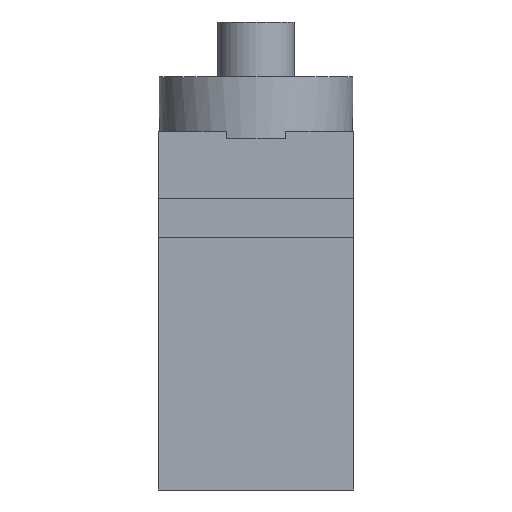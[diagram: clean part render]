
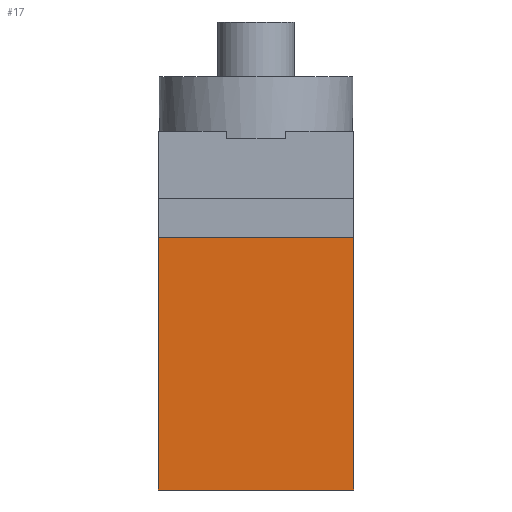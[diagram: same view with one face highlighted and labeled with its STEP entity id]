
A CAD part, left-side view. The second image highlights one B-rep face of the part: STEP entity #17.
In plain terms, the highlighted planar face has unit normal (-1, 0, 0).
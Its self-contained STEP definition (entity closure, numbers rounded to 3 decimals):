
#17 = ADVANCED_FACE('',(#18),#32,.F.);
#18 = FACE_BOUND('',#19,.F.);
#19 = EDGE_LOOP('',(#20,#55,#83,#111));
#20 = ORIENTED_EDGE('',*,*,#21,.F.);
#21 = EDGE_CURVE('',#22,#24,#26,.T.);
#22 = VERTEX_POINT('',#23);
#23 = CARTESIAN_POINT('',(-11.75,-27.043,-72.7));
#24 = VERTEX_POINT('',#25);
#25 = CARTESIAN_POINT('',(-11.75,-27.043,-56.5));
#26 = SURFACE_CURVE('',#27,(#31,#43),.PCURVE_S1.);
#27 = LINE('',#28,#29);
#28 = CARTESIAN_POINT('',(-11.75,-27.043,-72.7));
#29 = VECTOR('',#30,1.);
#30 = DIRECTION('',(0.,0.,1.));
#31 = PCURVE('',#32,#37);
#32 = PLANE('',#33);
#33 = AXIS2_PLACEMENT_3D('',#34,#35,#36);
#34 = CARTESIAN_POINT('',(-11.75,-27.043,-72.7));
#35 = DIRECTION('',(1.,0.,-0.));
#36 = DIRECTION('',(0.,0.,1.));
#37 = DEFINITIONAL_REPRESENTATION('',(#38),#42);
#38 = LINE('',#39,#40);
#39 = CARTESIAN_POINT('',(0.,0.));
#40 = VECTOR('',#41,1.);
#41 = DIRECTION('',(1.,0.));
#42 = ( GEOMETRIC_REPRESENTATION_CONTEXT(2) 
PARAMETRIC_REPRESENTATION_CONTEXT() REPRESENTATION_CONTEXT('2D SPACE',''
  ) );
#43 = PCURVE('',#44,#49);
#44 = PLANE('',#45);
#45 = AXIS2_PLACEMENT_3D('',#46,#47,#48);
#46 = CARTESIAN_POINT('',(-11.75,-27.043,-72.7));
#47 = DIRECTION('',(-0.,1.,0.));
#48 = DIRECTION('',(0.,0.,1.));
#49 = DEFINITIONAL_REPRESENTATION('',(#50),#54);
#50 = LINE('',#51,#52);
#51 = CARTESIAN_POINT('',(0.,0.));
#52 = VECTOR('',#53,1.);
#53 = DIRECTION('',(1.,0.));
#54 = ( GEOMETRIC_REPRESENTATION_CONTEXT(2) 
PARAMETRIC_REPRESENTATION_CONTEXT() REPRESENTATION_CONTEXT('2D SPACE',''
  ) );
#55 = ORIENTED_EDGE('',*,*,#56,.T.);
#56 = EDGE_CURVE('',#22,#57,#59,.T.);
#57 = VERTEX_POINT('',#58);
#58 = CARTESIAN_POINT('',(-11.75,-14.543,-72.7));
#59 = SURFACE_CURVE('',#60,(#64,#71),.PCURVE_S1.);
#60 = LINE('',#61,#62);
#61 = CARTESIAN_POINT('',(-11.75,-27.043,-72.7));
#62 = VECTOR('',#63,1.);
#63 = DIRECTION('',(-0.,1.,0.));
#64 = PCURVE('',#32,#65);
#65 = DEFINITIONAL_REPRESENTATION('',(#66),#70);
#66 = LINE('',#67,#68);
#67 = CARTESIAN_POINT('',(0.,0.));
#68 = VECTOR('',#69,1.);
#69 = DIRECTION('',(0.,-1.));
#70 = ( GEOMETRIC_REPRESENTATION_CONTEXT(2) 
PARAMETRIC_REPRESENTATION_CONTEXT() REPRESENTATION_CONTEXT('2D SPACE',''
  ) );
#71 = PCURVE('',#72,#77);
#72 = PLANE('',#73);
#73 = AXIS2_PLACEMENT_3D('',#74,#75,#76);
#74 = CARTESIAN_POINT('',(-11.75,-27.043,-72.7));
#75 = DIRECTION('',(0.,0.,1.));
#76 = DIRECTION('',(1.,0.,-0.));
#77 = DEFINITIONAL_REPRESENTATION('',(#78),#82);
#78 = LINE('',#79,#80);
#79 = CARTESIAN_POINT('',(0.,0.));
#80 = VECTOR('',#81,1.);
#81 = DIRECTION('',(0.,1.));
#82 = ( GEOMETRIC_REPRESENTATION_CONTEXT(2) 
PARAMETRIC_REPRESENTATION_CONTEXT() REPRESENTATION_CONTEXT('2D SPACE',''
  ) );
#83 = ORIENTED_EDGE('',*,*,#84,.T.);
#84 = EDGE_CURVE('',#57,#85,#87,.T.);
#85 = VERTEX_POINT('',#86);
#86 = CARTESIAN_POINT('',(-11.75,-14.543,-56.5));
#87 = SURFACE_CURVE('',#88,(#92,#99),.PCURVE_S1.);
#88 = LINE('',#89,#90);
#89 = CARTESIAN_POINT('',(-11.75,-14.543,-72.7));
#90 = VECTOR('',#91,1.);
#91 = DIRECTION('',(0.,0.,1.));
#92 = PCURVE('',#32,#93);
#93 = DEFINITIONAL_REPRESENTATION('',(#94),#98);
#94 = LINE('',#95,#96);
#95 = CARTESIAN_POINT('',(0.,-12.5));
#96 = VECTOR('',#97,1.);
#97 = DIRECTION('',(1.,0.));
#98 = ( GEOMETRIC_REPRESENTATION_CONTEXT(2) 
PARAMETRIC_REPRESENTATION_CONTEXT() REPRESENTATION_CONTEXT('2D SPACE',''
  ) );
#99 = PCURVE('',#100,#105);
#100 = PLANE('',#101);
#101 = AXIS2_PLACEMENT_3D('',#102,#103,#104);
#102 = CARTESIAN_POINT('',(-11.75,-14.543,-72.7));
#103 = DIRECTION('',(-0.,1.,0.));
#104 = DIRECTION('',(0.,0.,1.));
#105 = DEFINITIONAL_REPRESENTATION('',(#106),#110);
#106 = LINE('',#107,#108);
#107 = CARTESIAN_POINT('',(0.,0.));
#108 = VECTOR('',#109,1.);
#109 = DIRECTION('',(1.,0.));
#110 = ( GEOMETRIC_REPRESENTATION_CONTEXT(2) 
PARAMETRIC_REPRESENTATION_CONTEXT() REPRESENTATION_CONTEXT('2D SPACE',''
  ) );
#111 = ORIENTED_EDGE('',*,*,#112,.T.);
#112 = EDGE_CURVE('',#85,#24,#113,.T.);
#113 = SURFACE_CURVE('',#114,(#118,#124),.PCURVE_S1.);
#114 = LINE('',#115,#116);
#115 = CARTESIAN_POINT('',(-11.75,-27.043,-56.5));
#116 = VECTOR('',#117,1.);
#117 = DIRECTION('',(0.,-1.,0.));
#118 = PCURVE('',#32,#119);
#119 = DEFINITIONAL_REPRESENTATION('',(#120),#123);
#120 = B_SPLINE_CURVE_WITH_KNOTS('',1,(#121,#122),.UNSPECIFIED.,.F.,.F.,
  (2,2),(-12.5,0.),.PIECEWISE_BEZIER_KNOTS.);
#121 = CARTESIAN_POINT('',(16.2,-12.5));
#122 = CARTESIAN_POINT('',(16.2,0.));
#123 = ( GEOMETRIC_REPRESENTATION_CONTEXT(2) 
PARAMETRIC_REPRESENTATION_CONTEXT() REPRESENTATION_CONTEXT('2D SPACE',''
  ) );
#124 = PCURVE('',#125,#130);
#125 = PLANE('',#126);
#126 = AXIS2_PLACEMENT_3D('',#127,#128,#129);
#127 = CARTESIAN_POINT('',(-16.25,-27.043,-56.5));
#128 = DIRECTION('',(0.,0.,1.));
#129 = DIRECTION('',(1.,0.,-0.));
#130 = DEFINITIONAL_REPRESENTATION('',(#131),#134);
#131 = B_SPLINE_CURVE_WITH_KNOTS('',1,(#132,#133),.UNSPECIFIED.,.F.,.F.,
  (2,2),(-12.5,0.),.PIECEWISE_BEZIER_KNOTS.);
#132 = CARTESIAN_POINT('',(4.5,12.5));
#133 = CARTESIAN_POINT('',(4.5,0.));
#134 = ( GEOMETRIC_REPRESENTATION_CONTEXT(2) 
PARAMETRIC_REPRESENTATION_CONTEXT() REPRESENTATION_CONTEXT('2D SPACE',''
  ) );
